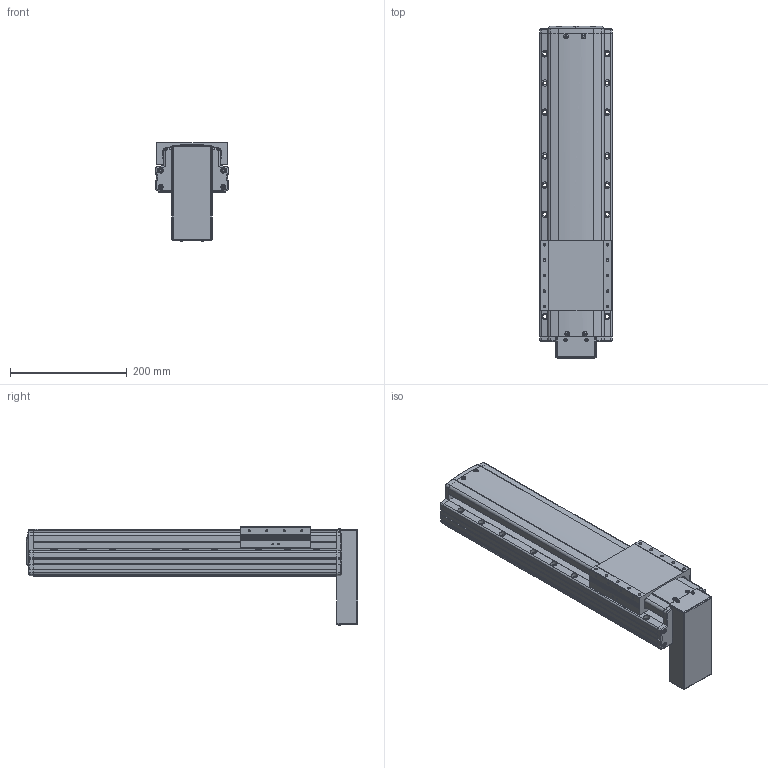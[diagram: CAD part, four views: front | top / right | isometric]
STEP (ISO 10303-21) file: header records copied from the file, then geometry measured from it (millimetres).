
FILE_DESCRIPTION(('STEP AP214'),'1');
FILE_NAME('Z:/Web/3D/PSA125/STP/PSA125-300 (3D)/PSA125ㅁㅁ-300PB.stp','2014-06-22T23:40:19',(' '),(' '),'Spatial InterOp 3D',' ',' ');
FILE_SCHEMA(('automotive_design'));
Length unit declared in the file: millimetre
Products named in the file (29): 스크루 : Round - M4.0 x 10.0; RRCV-PA120; SLIDE; BASE; FRCV-PA120-1(기준 뿔 제거); RR1500; 스크루 : Round - M4.0 x 6.0; 너트 : Square - M10.0 x 220.7419; 1; 2; 파트105; 스크루 : Round - M3.0 x 6.0
Bounding box: 125 x 568.6 x 169.06 mm (x, y, z)
Volume: 4965373.6 mm3; surface area: 464029.3 mm2
Topology: 29 solids, 29 shells, 2102 faces, 5591 edges, 3556 vertices
Faces by surface type: plane 1136, cylinder 608, cone 242, sphere 52, torus 33, bspline 31
Entity records: 83964 total; most frequent: CARTESIAN_POINT 13949, DIRECTION 11172, ORIENTED_EDGE 10922, EDGE_CURVE 5461, AXIS2_PLACEMENT_3D 3779, LINE 3614, VECTOR 3614, VERTEX_POINT 3556
